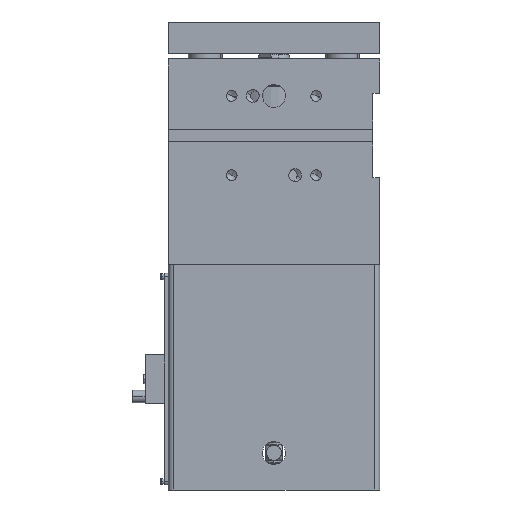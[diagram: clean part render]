
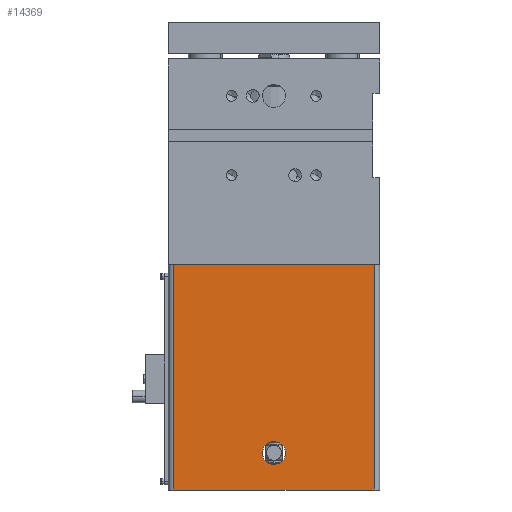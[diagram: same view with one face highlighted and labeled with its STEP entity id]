
A CAD part, front view. The second image highlights one B-rep face of the part: STEP entity #14369.
In plain terms, the highlighted planar face has unit normal (0, -1, 0).
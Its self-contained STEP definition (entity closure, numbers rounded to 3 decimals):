
#14331=AXIS2_PLACEMENT_3D('Plane Axis2P3D',#14328,#14329,#14330) ;
#14353=AXIS2_PLACEMENT_3D('Circle Axis2P3D',#14351,#14352,$) ;
#14362=AXIS2_PLACEMENT_3D('Circle Axis2P3D',#14360,#14361,$) ;
#14031=CARTESIAN_POINT('Vertex',(95.,-50.,-408.)) ;
#14034=CARTESIAN_POINT('Line Origine',(0.,-50.,-408.)) ;
#14038=CARTESIAN_POINT('Vertex',(-95.,-50.,-408.)) ;
#14302=CARTESIAN_POINT('Line Origine',(95.,-50.,-406.5)) ;
#14306=CARTESIAN_POINT('Vertex',(95.,-50.,-195.01)) ;
#14328=CARTESIAN_POINT('Axis2P3D Location',(-100.,-50.,-195.)) ;
#14333=CARTESIAN_POINT('Line Origine',(0.,-50.,-195.01)) ;
#14337=CARTESIAN_POINT('Vertex',(-95.,-50.,-195.01)) ;
#14340=CARTESIAN_POINT('Line Origine',(-95.,-50.,-301.505)) ;
#14351=CARTESIAN_POINT('Axis2P3D Location',(0.,-50.,-373.)) ;
#14355=CARTESIAN_POINT('Vertex',(11.,-50.,-373.)) ;
#14357=CARTESIAN_POINT('Vertex',(-11.,-50.,-373.)) ;
#14360=CARTESIAN_POINT('Axis2P3D Location',(0.,-50.,-373.)) ;
#14035=DIRECTION('Vector Direction',(-1.,0.,0.)) ;
#14303=DIRECTION('Vector Direction',(0.,0.,-1.)) ;
#14329=DIRECTION('Axis2P3D Direction',(-0.,1.,0.)) ;
#14330=DIRECTION('Axis2P3D XDirection',(1.,0.,0.)) ;
#14334=DIRECTION('Vector Direction',(1.,0.,0.)) ;
#14341=DIRECTION('Vector Direction',(0.,0.,-1.)) ;
#14352=DIRECTION('Axis2P3D Direction',(-0.,1.,0.)) ;
#14361=DIRECTION('Axis2P3D Direction',(-0.,1.,0.)) ;
#14036=VECTOR('Line Direction',#14035,1.) ;
#14304=VECTOR('Line Direction',#14303,1.) ;
#14335=VECTOR('Line Direction',#14334,1.) ;
#14342=VECTOR('Line Direction',#14341,1.) ;
#14346=ORIENTED_EDGE('',*,*,#14339,.T.) ;
#14347=ORIENTED_EDGE('',*,*,#14344,.T.) ;
#14348=ORIENTED_EDGE('',*,*,#14040,.F.) ;
#14349=ORIENTED_EDGE('',*,*,#14308,.F.) ;
#14366=ORIENTED_EDGE('',*,*,#14359,.T.) ;
#14367=ORIENTED_EDGE('',*,*,#14364,.T.) ;
#14368=FACE_BOUND('',#14365,.T.) ;
#14369=ADVANCED_FACE('PartBody',(#14350,#14368),#14332,.F.) ;
#14354=CIRCLE('generated circle',#14353,11.) ;
#14363=CIRCLE('generated circle',#14362,11.) ;
#14040=EDGE_CURVE('',#14032,#14039,#14037,.T.) ;
#14308=EDGE_CURVE('',#14307,#14032,#14305,.T.) ;
#14339=EDGE_CURVE('',#14307,#14338,#14336,.F.) ;
#14344=EDGE_CURVE('',#14338,#14039,#14343,.T.) ;
#14359=EDGE_CURVE('',#14356,#14358,#14354,.T.) ;
#14364=EDGE_CURVE('',#14358,#14356,#14363,.T.) ;
#14345=EDGE_LOOP('',(#14346,#14347,#14348,#14349)) ;
#14365=EDGE_LOOP('',(#14366,#14367)) ;
#14350=FACE_OUTER_BOUND('',#14345,.T.) ;
#14037=LINE('Line',#14034,#14036) ;
#14305=LINE('Line',#14302,#14304) ;
#14336=LINE('Line',#14333,#14335) ;
#14343=LINE('Line',#14340,#14342) ;
#14332=PLANE('Plane',#14331) ;
#14032=VERTEX_POINT('',#14031) ;
#14039=VERTEX_POINT('',#14038) ;
#14307=VERTEX_POINT('',#14306) ;
#14338=VERTEX_POINT('',#14337) ;
#14356=VERTEX_POINT('',#14355) ;
#14358=VERTEX_POINT('',#14357) ;
